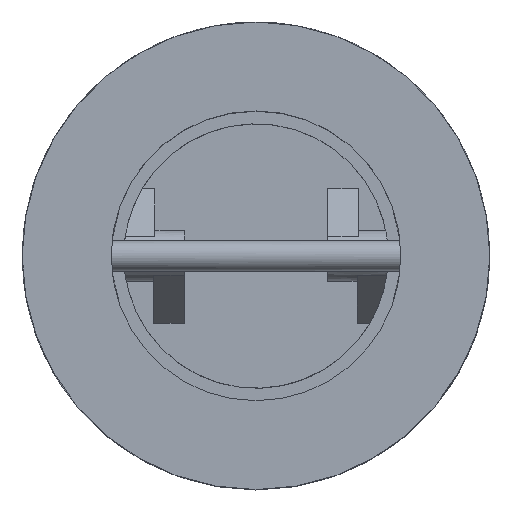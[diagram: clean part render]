
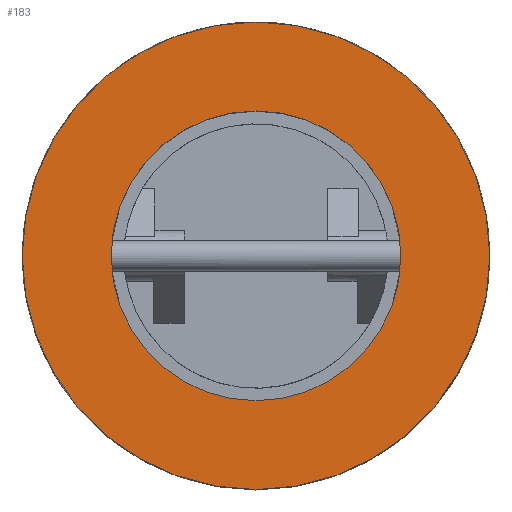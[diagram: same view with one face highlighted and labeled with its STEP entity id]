
A CAD part, top view. The second image highlights one B-rep face of the part: STEP entity #183.
In plain terms, the highlighted planar face has unit normal (0, 0, 1).
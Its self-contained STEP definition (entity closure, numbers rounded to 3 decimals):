
#183=ADVANCED_FACE('',(#822,#824),#826,.T.);
#822=FACE_BOUND('',#823,.T.);
#823=EDGE_LOOP('',(#1339));
#824=FACE_BOUND('',#825,.T.);
#825=EDGE_LOOP('',(#1340));
#826=PLANE('',#827);
#827=AXIS2_PLACEMENT_3D('',#828,#829,#830);
#828=CARTESIAN_POINT('',(0.,0.,43.));
#829=DIRECTION('',(0.,0.,1.));
#830=DIRECTION('',(0.,-1.,0.));
#1339=ORIENTED_EDGE('',*,*,#1681,.T.);
#1340=ORIENTED_EDGE('',*,*,#1691,.F.);
#1681=EDGE_CURVE('',#1899,#1899,#1900,.T.);
#1691=EDGE_CURVE('',#1919,#1919,#1920,.T.);
#1899=VERTEX_POINT('',#2306);
#1900=CIRCLE('',#2307,46.);
#1919=VERTEX_POINT('',#2352);
#1920=CIRCLE('',#2353,28.5);
#2306=CARTESIAN_POINT('',(0.,-46.,43.));
#2307=AXIS2_PLACEMENT_3D('',#2308,#2309,#2310);
#2308=CARTESIAN_POINT('',(0.,0.,43.));
#2309=DIRECTION('',(0.,0.,1.));
#2310=DIRECTION('',(0.,-1.,0.));
#2352=CARTESIAN_POINT('',(0.,-28.5,43.));
#2353=AXIS2_PLACEMENT_3D('',#2354,#2355,#2356);
#2354=CARTESIAN_POINT('',(0.,0.,43.));
#2355=DIRECTION('',(0.,0.,1.));
#2356=DIRECTION('',(0.,-1.,0.));
